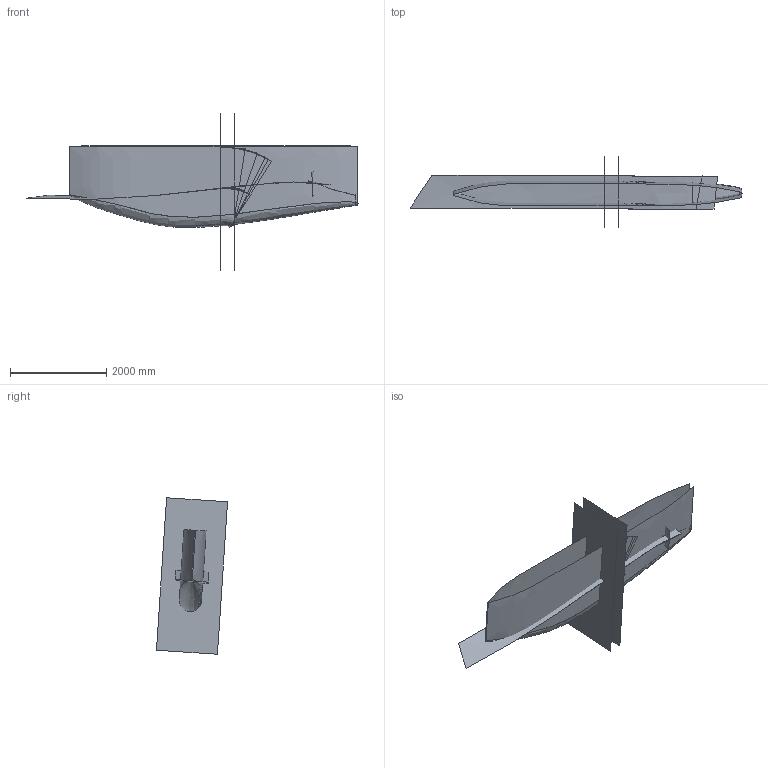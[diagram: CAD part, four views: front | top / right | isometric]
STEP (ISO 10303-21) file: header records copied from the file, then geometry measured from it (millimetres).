
FILE_DESCRIPTION((''),'2;1');
FILE_NAME('','2022-11-28T03:03:23',(''),(''),'','CADfix','');
FILE_SCHEMA(('AUTOMOTIVE_DESIGN { 1 0 10303 214 1 1 1 1 }'));
Bounding box: 6898.76 x 1478.92 x 3252.63 mm (x, y, z)
Surface area: 48007629.6 mm2 (no closed solid volume)
Topology: 0 solids, 0 shells, 21 faces, 85 edges, 86 vertices
Faces by surface type: bspline 21
Entity records: 69699 total; most frequent: CARTESIAN_POINT 69655, B_SPLINE_SURFACE_WITH_KNOTS 21, DIMENSIONAL_EXPONENTS 2, DIRECTION 1, VECTOR 1, LINE 1, TRIMMED_CURVE 1, PLANE_ANGLE_MEASURE_WITH_UNIT 1
